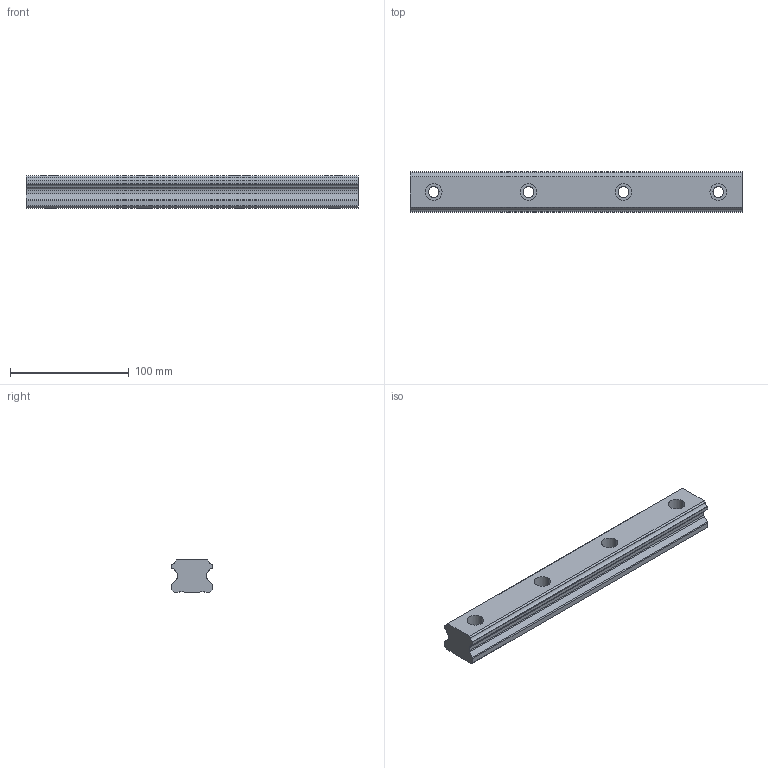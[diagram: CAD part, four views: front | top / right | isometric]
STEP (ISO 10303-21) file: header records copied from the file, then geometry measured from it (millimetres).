
FILE_DESCRIPTION(('starvars output'),'2;1');
FILE_NAME('cv20190626225829000044015.stp','22:58:29 2019/06/26',( 'Thomas Industrial Network Germany GmbH'),( 'Thomas Industrial Network Germany GmbH'),'unknown preprocess','ACIS' ,'unknown authorization');
FILE_SCHEMA(('CONFIG_CONTROL_DESIGN {UNKNOWN IMPLEMENTATION LEVEL}'));
Length unit declared in the file: millimetre
Products named in the file (1): PRODUCT_ID_1
Bounding box: 280 x 34 x 27.5 mm (x, y, z)
Volume: 218377.7 mm3; surface area: 40076.6 mm2
Topology: 1 solids, 1 shells, 68 faces, 186 edges, 124 vertices
Faces by surface type: cylinder 34, plane 34
Entity records: 2159 total; most frequent: ORIENTED_EDGE 372, CARTESIAN_POINT 354, DIRECTION 342, EDGE_CURVE 186, VERTEX_POINT 124, VECTOR 118, LINE 118, AXIS2_PLACEMENT_3D 112
